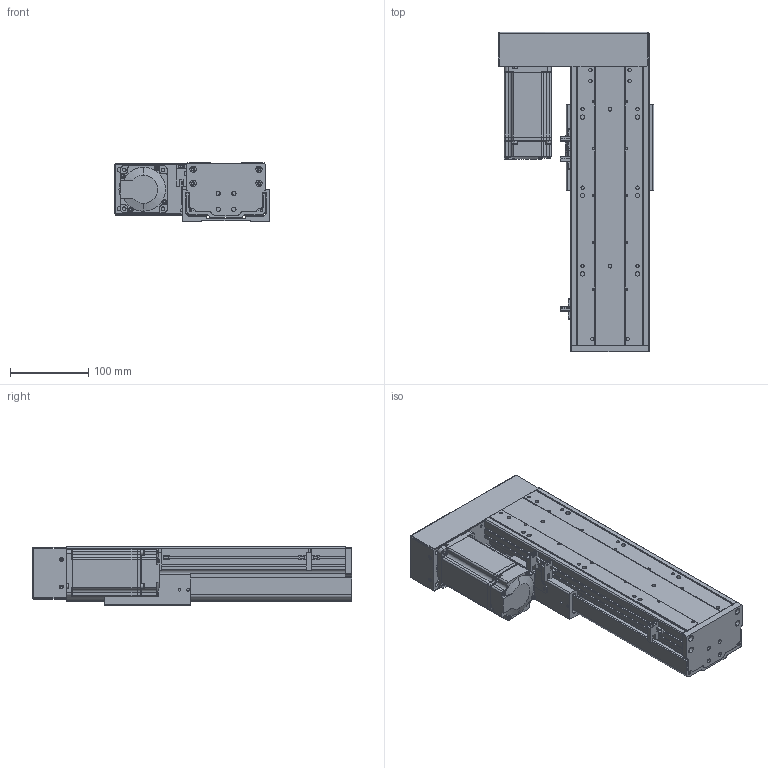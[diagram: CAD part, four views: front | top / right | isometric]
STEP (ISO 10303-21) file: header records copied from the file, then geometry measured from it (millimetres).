
FILE_DESCRIPTION (( 'STEP AP203' ), '1' );
FILE_NAME ('RY100FBS-L1610-300-LK(15双轨）.SLDASM_150.step', '2021-02-23T01:49:05', ( '盈信电脑' ), ( '东莞市道滘镇水果街19号' ), 'SwSTEP 2.0', 'SolidWorks 2012', '' );
FILE_SCHEMA (( 'CONFIG_CONTROL_DESIGN' ));
Products named in the file (14): RY100FBS-L1610-300-LK(15双轨）.SLDASM_150; RY100FBS-酘衵殏萇儂欶; RY100FBS-后盖板(15双轨）; RY100FBS-酘衵殏萇儂啣; 侂狟400W侜督萇儂; RY100FBS-嫖萇覜茼え; 覜茼ん672; 15; RY100FBS-转折支撑座（15双轨）; 滅袉蝶18-15; 滅袉蝶18-24; RY100FBS-铝滑块（16丝杆）; RY100FBS-300蛌殏菁釱-LK_150; RY100FBS-300蛌殏奻裔啣-LK_150
Assembly tree (15 placements, depth 3):
  RY100FBS-L1610-300-LK(15双轨）.SLDASM_150
    RY100FBS-300蛌殏菁釱-LK_150
    RY100FBS-300蛌殏奻裔啣-LK_150
    RY100FBS-转折支撑座（15双轨）
    滅袉蝶18-24
    滅袉蝶18-15
    RY100FBS-铝滑块（16丝杆）
    覜茼ん672  x3
    RY100FBS-嫖萇覜茼え
    侂狟400W侜督萇儂
      15
    RY100FBS-后盖板(15双轨）
    RY100FBS-酘衵殏萇儂啣
    RY100FBS-酘衵殏萇儂欶
Bounding box: 198.75 x 407 x 74 mm (x, y, z)
Volume: 1582962.7 mm3; surface area: 544255.3 mm2
Topology: 14 solids, 14 shells, 1511 faces, 4214 edges, 2726 vertices
Faces by surface type: cylinder 683, plane 676, cone 126, bspline 26
Entity records: 46713 total; most frequent: CARTESIAN_POINT 9922, DIRECTION 7465, ORIENTED_EDGE 7304, EDGE_CURVE 3652, AXIS2_PLACEMENT_3D 2665, VERTEX_POINT 2406, VECTOR 2135, LINE 2135
